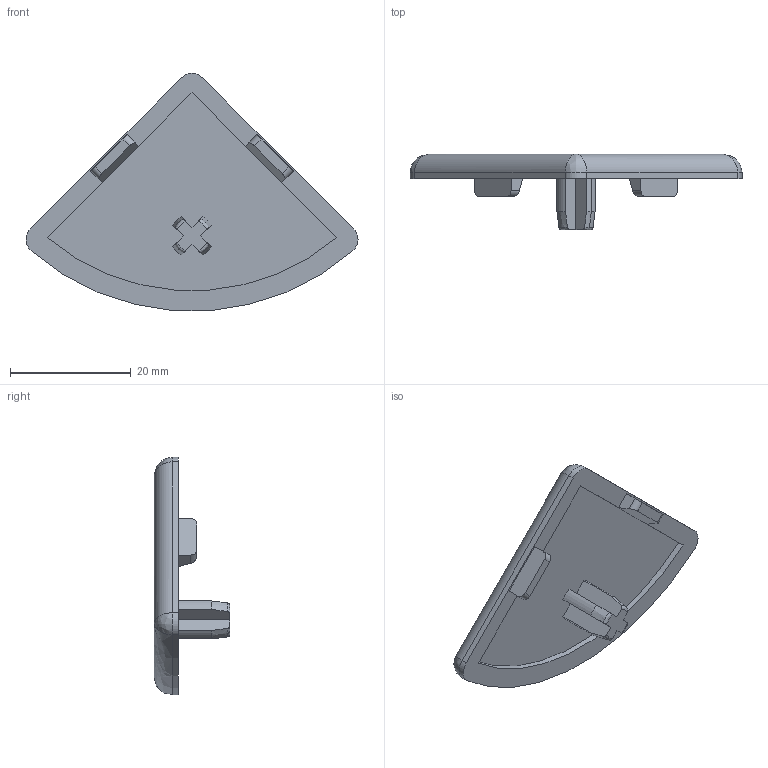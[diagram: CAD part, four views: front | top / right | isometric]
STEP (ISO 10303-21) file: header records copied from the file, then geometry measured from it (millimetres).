
FILE_DESCRIPTION (( 'STEP AP214' ), '1' );
FILE_NAME ('10059-ABDR4090.STEP', '2017-01-10T11:35:31', ( '' ), ( '' ), 'SwSTEP 2.0', 'SolidWorks 2016', '' );
FILE_SCHEMA (( 'AUTOMOTIVE_DESIGN' ));
Length unit declared in the file: millimetre
Products named in the file (1): 10059-ABDR4090
Bounding box: 54.94 x 12.5 x 39.23 mm (x, y, z)
Volume: 4317.3 mm3; surface area: 3412.8 mm2
Topology: 1 solids, 1 shells, 56 faces, 145 edges, 90 vertices
Faces by surface type: plane 26, cylinder 16, bspline 9, cone 5
Entity records: 2102 total; most frequent: CARTESIAN_POINT 799, ORIENTED_EDGE 284, DIRECTION 237, EDGE_CURVE 142, VERTEX_POINT 90, AXIS2_PLACEMENT_3D 79, VECTOR 79, LINE 79
